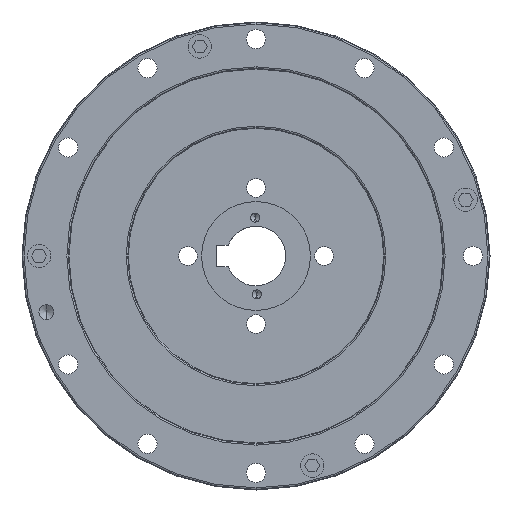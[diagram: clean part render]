
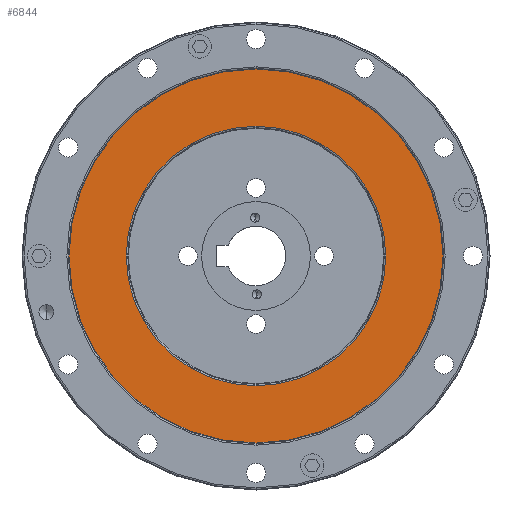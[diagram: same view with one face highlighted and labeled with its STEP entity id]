
A CAD part, left-side view. The second image highlights one B-rep face of the part: STEP entity #6844.
In plain terms, the highlighted planar face has unit normal (-1, 0, 0).
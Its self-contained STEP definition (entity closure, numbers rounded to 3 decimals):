
#1357=CARTESIAN_POINT('',(2.8,0.,0.));
#1358=DIRECTION('',(-1.,0.,0.));
#1359=DIRECTION('',(0.,0.,-1.));
#1360=AXIS2_PLACEMENT_3D('',#1357,#1358,#1359);
#1365=CARTESIAN_POINT('',(2.8,0.,0.));
#1366=DIRECTION('',(-1.,0.,0.));
#1367=DIRECTION('',(0.,0.,1.));
#1368=AXIS2_PLACEMENT_3D('',#1365,#1366,#1367);
#1373=CARTESIAN_POINT('',(2.8,0.,0.));
#1374=DIRECTION('',(1.,0.,0.));
#1375=DIRECTION('',(0.,0.,-1.));
#1376=AXIS2_PLACEMENT_3D('',#1373,#1374,#1375);
#1381=CARTESIAN_POINT('',(2.8,0.,0.));
#1382=DIRECTION('',(1.,0.,0.));
#1383=DIRECTION('',(0.,0.,1.));
#1384=AXIS2_PLACEMENT_3D('',#1381,#1382,#1383);
#5937=CARTESIAN_POINT('',(2.8,0.,-43.962));
#5938=VERTEX_POINT('',#5937);
#5939=CARTESIAN_POINT('',(2.8,0.,43.962));
#5940=VERTEX_POINT('',#5939);
#5949=CARTESIAN_POINT('',(2.8,0.,30.5));
#5950=VERTEX_POINT('',#5949);
#5951=CARTESIAN_POINT('',(2.8,0.,-30.5));
#5952=VERTEX_POINT('',#5951);
#6828=CARTESIAN_POINT('',(2.8,43.962,0.));
#6829=DIRECTION('',(-1.,0.,0.));
#6830=DIRECTION('',(0.,0.,1.));
#6831=AXIS2_PLACEMENT_3D('',#6828,#6829,#6830);
#6832=PLANE('',#6831);
#6834=ORIENTED_EDGE('',*,*,#6833,.F.);
#6836=ORIENTED_EDGE('',*,*,#6835,.F.);
#6837=EDGE_LOOP('',(#6834,#6836));
#6838=FACE_OUTER_BOUND('',#6837,.F.);
#6839=ORIENTED_EDGE('',*,*,#6818,.F.);
#6841=ORIENTED_EDGE('',*,*,#6840,.F.);
#6842=EDGE_LOOP('',(#6839,#6841));
#6843=FACE_BOUND('',#6842,.F.);
#1361=CIRCLE('',#1360,43.962);
#1369=CIRCLE('',#1368,43.962);
#1377=CIRCLE('',#1376,30.5);
#1385=CIRCLE('',#1384,30.5);
#6818=EDGE_CURVE('',#5952,#5950,#1377,.T.);
#6833=EDGE_CURVE('',#5938,#5940,#1361,.T.);
#6835=EDGE_CURVE('',#5940,#5938,#1369,.T.);
#6840=EDGE_CURVE('',#5950,#5952,#1385,.T.);
#6844=ADVANCED_FACE('',(#6838,#6843),#6832,.T.);
